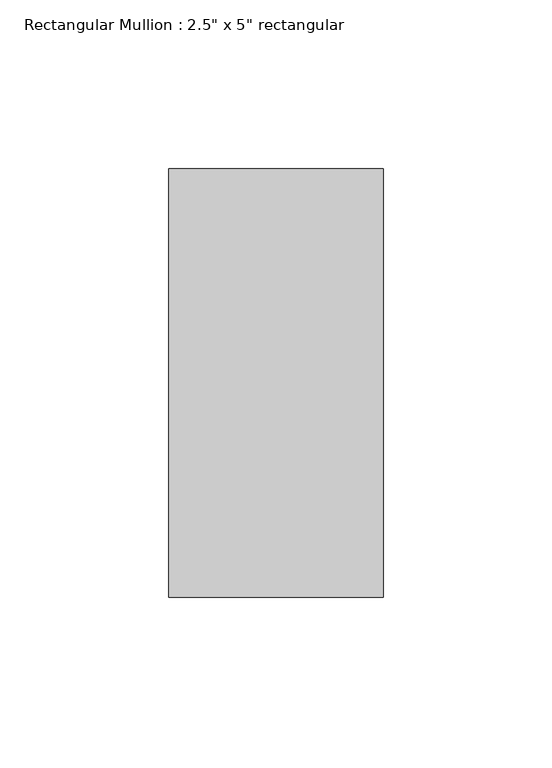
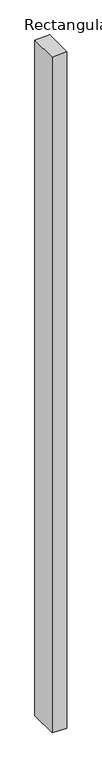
"""IFC4 building model written with IfcOpenShell, lengths in millimetres: member geometry."""

from ifc_helpers import new_model, si_unit, frame, origin, place, context, project, spatial, polyline, outline, extrude, source, transform, mapped, element, save


def member_728934ac(model_context):
    return source(origin(), model_context, "Body", "SweptSolid", [
        extrude(outline(polyline([(0.0, 0.0), (-1.2427986, -63.5), (-3046.7639653, -63.5), (-3048.0068675, 0.0), (0.0, 0.0)])), frame((0.0, -63.5, 0.0), z_axis=(0.0, 1.0, 0.0), x_axis=(0.0, 0.0, 1.0)), (0.0, 0.0, 1.0), 127.0),
    ])


if __name__ == "__main__":
    model = new_model("IFC4")
    model_context = context("Model", 3, world=origin())
    ifc_project = project(units=[si_unit("LENGTHUNIT", "METRE", prefix="MILLI")], contexts=[model_context])
    site = spatial("IfcSite", under=ifc_project)
    building = spatial("IfcBuilding", under=site)
    placement = place(None, origin())
    member_shape = member_728934ac(model_context)
    element("IfcMember", 1, ObjectType="Rectangular Mullion : 2.5\" x 5\" rectangular", at=placement, inside=building, context=model_context, shape_type="MappedRepresentation", body=[
        mapped(member_shape, transform((0.0, 0.0, 0.0), x_axis=(1.0, 0.0, 0.0), y_axis=(0.0, 1.0, 0.0), z_axis=(0.0, 0.0, 1.0))),
    ])
    save(model, "model.ifc")
